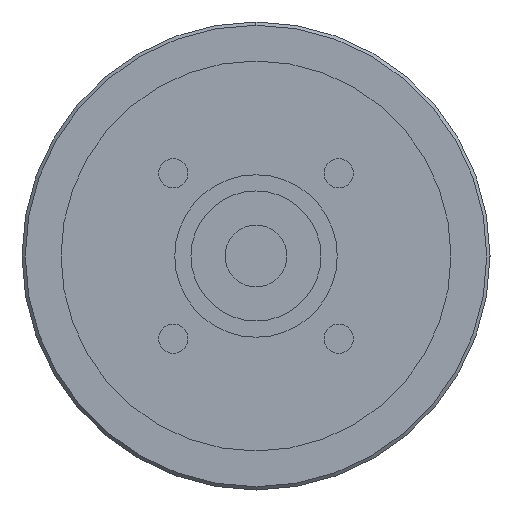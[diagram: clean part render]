
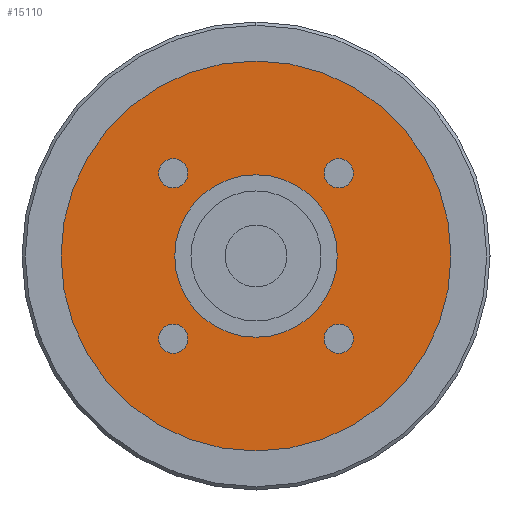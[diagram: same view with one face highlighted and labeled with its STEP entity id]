
A CAD part, left-side view. The second image highlights one B-rep face of the part: STEP entity #15110.
In plain terms, the highlighted planar face has unit normal (-1, 0, 0) as drawn and (0, 0, -1) by its records, which use the part's own axes.
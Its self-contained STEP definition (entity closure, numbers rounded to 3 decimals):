
#11890=CARTESIAN_POINT('',(0.,0.,
-91.));
#11900=DIRECTION('',(0.,0.,1.));
#11910=DIRECTION('',(0.,-1.,0.));
#11920=AXIS2_PLACEMENT_3D('',#11890,#11900,#11910);
#11930=CIRCLE('',#11920,12.5);
#11940=CARTESIAN_POINT('',(0.,-12.5,-91.));
#11950=VERTEX_POINT('',#11940);
#11960=CARTESIAN_POINT('',(12.5,0.,-91.));
#11970=VERTEX_POINT('',#11960);
#11980=EDGE_CURVE('',#11950,#11970,#11930,.T.);
#12210=CARTESIAN_POINT('',(-12.5,0.,-91.));
#12220=VERTEX_POINT('',#12210);
#12250=EDGE_CURVE('',#12220,#11950,#11930,.T.);
#12390=CARTESIAN_POINT('',(-10.478,-12.728,-91.));
#12400=VERTEX_POINT('',#12390);
#12580=CARTESIAN_POINT('',(-14.978,-12.728,-91.));
#12590=VERTEX_POINT('',#12580);
#12620=CARTESIAN_POINT('',(-12.728,-12.728,-91.));
#12630=DIRECTION('',(0.,0.,-1.));
#12640=DIRECTION('',(0.,-1.,0.));
#12650=AXIS2_PLACEMENT_3D('',#12620,#12630,#12640);
#12660=CIRCLE('',#12650,2.25);
#12670=CARTESIAN_POINT('',(-12.728,-14.978,-91.));
#12680=VERTEX_POINT('',#12670);
#12690=EDGE_CURVE('',#12680,#12590,#12660,.T.);
#12710=EDGE_CURVE('',#12400,#12680,#12660,.T.);
#14040=CARTESIAN_POINT('',(30.,0.,-91.));
#14050=VERTEX_POINT('',#14040);
#14080=CARTESIAN_POINT('',(0.,0.,
-91.));
#14090=DIRECTION('',(0.,0.,1.));
#14100=DIRECTION('',(0.,-1.,0.));
#14110=AXIS2_PLACEMENT_3D('',#14080,#14090,#14100);
#14120=CIRCLE('',#14110,30.);
#14130=CARTESIAN_POINT('',(0.,-30.,-91.));
#14140=VERTEX_POINT('',#14130);
#14150=EDGE_CURVE('',#14140,#14050,#14120,.T.);
#14170=CARTESIAN_POINT('',(-30.,0.,-91.));
#14180=VERTEX_POINT('',#14170);
#14190=EDGE_CURVE('',#14180,#14140,#14120,.T.);
#14310=CARTESIAN_POINT('',(0.,0.,
-91.));
#14320=DIRECTION('',(0.,0.,1.));
#14330=DIRECTION('',(-1.,0.,0.));
#14340=AXIS2_PLACEMENT_3D('',#14310,#14320,#14330);
#14350=PLANE('',#14340);
#14360=CARTESIAN_POINT('',(12.728,-12.728,-91.));
#14370=DIRECTION('',(0.,0.,-1.));
#14380=DIRECTION('',(1.,0.,0.));
#14390=AXIS2_PLACEMENT_3D('',#14360,#14370,#14380);
#14400=CIRCLE('',#14390,2.25);
#14410=CARTESIAN_POINT('',(14.978,-12.728,-91.));
#14420=VERTEX_POINT('',#14410);
#14430=CARTESIAN_POINT('',(12.728,-14.978,-91.));
#14440=VERTEX_POINT('',#14430);
#14450=EDGE_CURVE('',#14420,#14440,#14400,.T.);
#14460=ORIENTED_EDGE('',*,*,#14450,.F.);
#14470=CARTESIAN_POINT('',(12.728,-10.478,-91.));
#14480=VERTEX_POINT('',#14470);
#14490=EDGE_CURVE('',#14440,#14480,#14400,.T.);
#14500=ORIENTED_EDGE('',*,*,#14490,.F.);
#14510=EDGE_CURVE('',#14480,#14420,#14400,.T.);
#14520=ORIENTED_EDGE('',*,*,#14510,.F.);
#14530=EDGE_LOOP('',(#14520,#14500,#14460));
#14540=FACE_BOUND('',#14530,.T.);
#14550=CARTESIAN_POINT('',(12.728,12.728,-91.));
#14560=DIRECTION('',(0.,0.,-1.));
#14570=DIRECTION('',(0.,1.,0.));
#14580=AXIS2_PLACEMENT_3D('',#14550,#14560,#14570);
#14590=CIRCLE('',#14580,2.25);
#14600=CARTESIAN_POINT('',(12.728,14.978,-91.));
#14610=VERTEX_POINT('',#14600);
#14620=CARTESIAN_POINT('',(14.978,12.728,-91.));
#14630=VERTEX_POINT('',#14620);
#14640=EDGE_CURVE('',#14610,#14630,#14590,.T.);
#14650=ORIENTED_EDGE('',*,*,#14640,.F.);
#14660=CARTESIAN_POINT('',(10.478,12.728,-91.));
#14670=VERTEX_POINT('',#14660);
#14680=EDGE_CURVE('',#14630,#14670,#14590,.T.);
#14690=ORIENTED_EDGE('',*,*,#14680,.F.);
#14700=EDGE_CURVE('',#14670,#14610,#14590,.T.);
#14710=ORIENTED_EDGE('',*,*,#14700,.F.);
#14720=EDGE_LOOP('',(#14710,#14690,#14650));
#14730=FACE_BOUND('',#14720,.T.);
#14740=CARTESIAN_POINT('',(-12.728,12.728,-91.));
#14750=DIRECTION('',(0.,0.,-1.));
#14760=DIRECTION('',(-1.,0.,0.));
#14770=AXIS2_PLACEMENT_3D('',#14740,#14750,#14760);
#14780=CIRCLE('',#14770,2.25);
#14790=CARTESIAN_POINT('',(-14.978,12.728,-91.));
#14800=VERTEX_POINT('',#14790);
#14810=CARTESIAN_POINT('',(-12.728,14.978,-91.));
#14820=VERTEX_POINT('',#14810);
#14830=EDGE_CURVE('',#14800,#14820,#14780,.T.);
#14840=ORIENTED_EDGE('',*,*,#14830,.F.);
#14850=CARTESIAN_POINT('',(-12.728,10.478,-91.));
#14860=VERTEX_POINT('',#14850);
#14870=EDGE_CURVE('',#14820,#14860,#14780,.T.);
#14880=ORIENTED_EDGE('',*,*,#14870,.F.);
#14890=EDGE_CURVE('',#14860,#14800,#14780,.T.);
#14900=ORIENTED_EDGE('',*,*,#14890,.F.);
#14910=EDGE_LOOP('',(#14900,#14880,#14840));
#14920=FACE_BOUND('',#14910,.T.);
#14930=ORIENTED_EDGE('',*,*,#12690,.F.);
#14940=EDGE_CURVE('',#12590,#12400,#12660,.T.);
#14950=ORIENTED_EDGE('',*,*,#14940,.F.);
#14960=ORIENTED_EDGE('',*,*,#12710,.F.);
#14970=EDGE_LOOP('',(#14960,#14950,#14930));
#14980=FACE_BOUND('',#14970,.T.);
#14990=ORIENTED_EDGE('',*,*,#14150,.F.);
#15000=EDGE_CURVE('',#14050,#14180,#14120,.T.);
#15010=ORIENTED_EDGE('',*,*,#15000,.F.);
#15020=ORIENTED_EDGE('',*,*,#14190,.F.);
#15030=EDGE_LOOP('',(#15020,#15010,#14990));
#15040=FACE_OUTER_BOUND('',#15030,.T.);
#15050=EDGE_CURVE('',#11970,#12220,#11930,.T.);
#15060=ORIENTED_EDGE('',*,*,#15050,.T.);
#15070=ORIENTED_EDGE('',*,*,#11980,.T.);
#15080=ORIENTED_EDGE('',*,*,#12250,.T.);
#15090=EDGE_LOOP('',(#15080,#15070,#15060));
#15100=FACE_BOUND('',#15090,.T.);
#15110=ADVANCED_FACE('',(#14540,#14730,#14920,#14980,#15040,#15100),
#14350,.F.);
